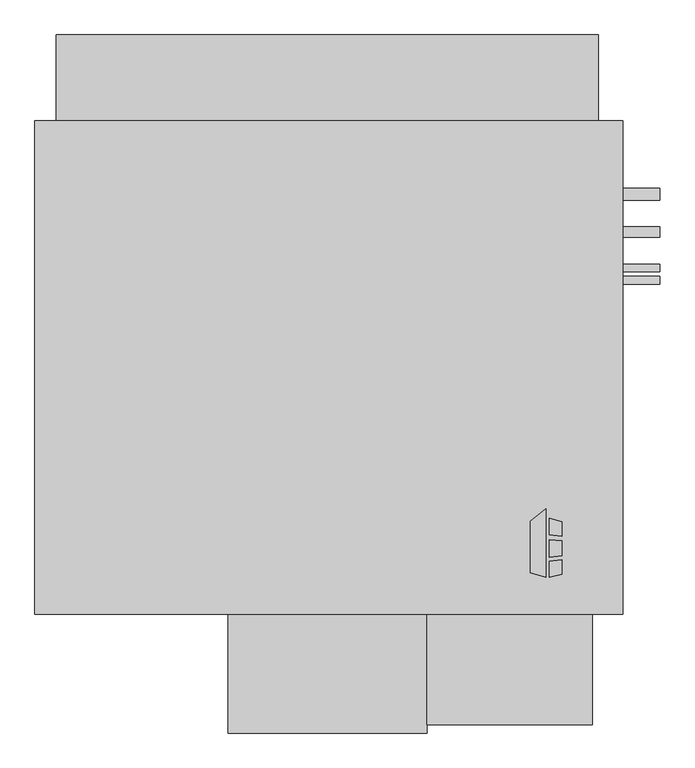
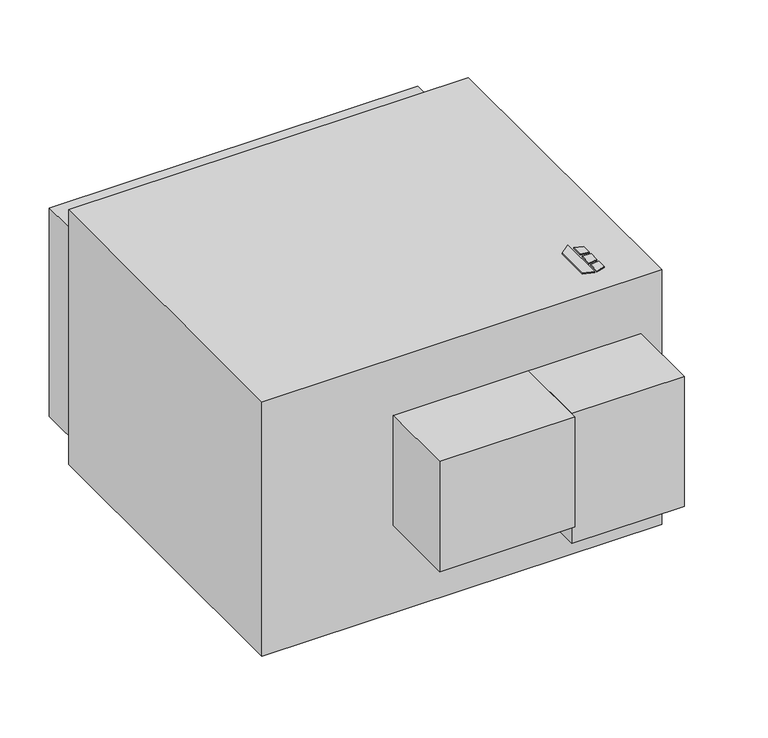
"""IFC4 building model written with IfcOpenShell, lengths in millimetres: proxy geometry, Horizontal_Direct_Drive_Blower_Coil_Unit_-_HDY_-_IEC_-_4-Pipe_RH_2022 : Size 30 - 460v/60Hz/3Ph - 6/2 Coil."""

from ifc_helpers import new_model, si_unit, point, frame, frame_2d, origin, origin_with_axes, place, context, project, spatial, polyline, circle_curve, trimmed, segment, composite_curve, outline, extrude, source, transform, mapped, element, save


def mechanical_equipment_0533dc98(model_context):
    return source(origin(), model_context, "Body", "SweptSolid", [
        extrude(outline(polyline([(-39.9980239, -337.5078476), (-7.4397272, -312.0705184), (-7.4397272, -454.025), (-39.9980239, -443.8054201), (-39.9980239, -337.5078476)])), origin_with_axes(), (0.0, 0.0, 1.0), 3.175),
        extrude(outline(polyline([(-0.6813942, -365.379852), (-0.6813942, -330.8999379), (25.4, -339.0865115), (25.4, -368.5822446), (-0.6813942, -365.379852)])), origin_with_axes(), (0.0, 0.0, 1.0), 3.175),
        extrude(outline(polyline([(25.4, -447.0365115), (-0.6813942, -454.025), (-0.6813942, -420.8036996), (25.4, -417.2618564), (25.4, -447.0365115)])), origin_with_axes(), (0.0, 0.0, 1.0), 3.175),
        extrude(outline(polyline([(25.4, -377.6638277), (25.4, -408.913983), (-0.6813942, -411.655248), (-0.6813942, -375.7975378), (25.4, -377.6638277)])), origin_with_axes(), (0.0, 0.0, 1.0), 3.175),
        extrude(outline(polyline([(152.4, 492.125), (152.4, -530.225), (-1066.8, -530.225), (-1066.8, 492.125), (152.4, 492.125)])), frame((0.0, 0.0, -822.3058174), z_axis=(0.0, 0.0, 1.0), x_axis=(1.0, 0.0, 0.0)), (0.0, 0.0, 1.0), 822.3058174),
        extrude(outline(polyline([(88.9, -758.825), (-254.0, -758.825), (-254.0, -530.225), (88.9, -530.225), (88.9, -758.825)])), frame((0.0, 0.0, -603.2308174), z_axis=(0.0, 0.0, 1.0), x_axis=(1.0, 0.0, 0.0)), (0.0, 0.0, 1.0), 419.1),
        extrude(outline(composite_curve([segment(trimmed(circle_curve(frame_2d((339.725, -180.7500418)), 12.7), [point((352.425, -180.7500418))], [point((327.025, -180.7500418))], False, "CARTESIAN"), True, "CONTINUOUS"), segment(trimmed(circle_curve(frame_2d((339.725, -180.7500418)), 12.7), [point((327.025, -180.7500418))], [point((352.425, -180.7500418))], False, "CARTESIAN"), True, "CONTINUOUS")], self_intersect=False)), frame((152.4, 0.0, 0.0), z_axis=(1.0, 0.0, 0.0), x_axis=(0.0, 1.0, 0.0)), (0.0, 0.0, 1.0), 76.2),
        extrude(outline(composite_curve([segment(trimmed(circle_curve(frame_2d((339.725, -695.3058174)), 12.7), [point((352.425, -695.3058174))], [point((327.025, -695.3058174))], False, "CARTESIAN"), True, "CONTINUOUS"), segment(trimmed(circle_curve(frame_2d((339.725, -695.3058174)), 12.7), [point((327.025, -695.3058174))], [point((352.425, -695.3058174))], False, "CARTESIAN"), True, "CONTINUOUS")], self_intersect=False)), frame((152.4, 0.0, 0.0), z_axis=(1.0, 0.0, 0.0), x_axis=(0.0, 1.0, 0.0)), (0.0, 0.0, 1.0), 76.2),
        extrude(outline(composite_curve([segment(trimmed(circle_curve(frame_2d((261.7604089, -777.8558174)), 11.1125), [point((272.8729089, -777.8558174))], [point((250.6479089, -777.8558174))], False, "CARTESIAN"), True, "CONTINUOUS"), segment(trimmed(circle_curve(frame_2d((261.7604089, -777.8558174)), 11.1125), [point((250.6479089, -777.8558174))], [point((272.8729089, -777.8558174))], False, "CARTESIAN"), True, "CONTINUOUS")], self_intersect=False)), frame((152.4, 0.0, 0.0), z_axis=(1.0, 0.0, 0.0), x_axis=(0.0, 1.0, 0.0)), (0.0, 0.0, 1.0), 76.2),
        extrude(outline(composite_curve([segment(trimmed(circle_curve(frame_2d((187.325, -231.7558174)), 7.9375), [point((195.2625, -231.7558174))], [point((179.3875, -231.7558174))], False, "CARTESIAN"), True, "CONTINUOUS"), segment(trimmed(circle_curve(frame_2d((187.325, -231.7558174)), 7.9375), [point((179.3875, -231.7558174))], [point((195.2625, -231.7558174))], False, "CARTESIAN"), True, "CONTINUOUS")], self_intersect=False)), frame((152.4, 0.0, 0.0), z_axis=(1.0, 0.0, 0.0), x_axis=(0.0, 1.0, 0.0)), (0.0, 0.0, 1.0), 76.2),
        extrude(outline(composite_curve([segment(trimmed(circle_curve(frame_2d((161.925, -644.5058174)), 7.9375), [point((169.8625, -644.5058174))], [point((153.9875, -644.5058174))], False, "CARTESIAN"), True, "CONTINUOUS"), segment(trimmed(circle_curve(frame_2d((161.925, -644.5058174)), 7.9375), [point((153.9875, -644.5058174))], [point((169.8625, -644.5058174))], False, "CARTESIAN"), True, "CONTINUOUS")], self_intersect=False)), frame((152.4, 0.0, 0.0), z_axis=(1.0, 0.0, 0.0), x_axis=(0.0, 1.0, 0.0)), (0.0, 0.0, 1.0), 76.2),
        extrude(outline(polyline([(-1022.35, 669.925), (101.6, 669.925), (101.6, 492.125), (-1022.35, 492.125), (-1022.35, 669.925)])), frame((0.0, 0.0, -790.5558174), z_axis=(0.0, 0.0, 1.0), x_axis=(1.0, 0.0, 0.0)), (0.0, 0.0, 1.0), 673.1),
        extrude(outline(polyline([(-254.0, -776.2875), (-666.75, -776.2875), (-666.75, -530.225), (-254.0, -530.225), (-254.0, -776.2875)])), frame((0.0, 0.0, -539.7308174), z_axis=(0.0, 0.0, 1.0), x_axis=(1.0, 0.0, 0.0)), (0.0, 0.0, 1.0), 355.6),
    ])


if __name__ == "__main__":
    model = new_model("IFC4")
    model_context = context("Model", 3, world=origin())
    ifc_project = project(units=[si_unit("LENGTHUNIT", "METRE", prefix="MILLI")], contexts=[model_context])
    site = spatial("IfcSite", under=ifc_project)
    building = spatial("IfcBuilding", under=site)
    placement = place(None, origin())
    mechanical_equipment_shape = mechanical_equipment_0533dc98(model_context)
    element("IfcBuildingElementProxy", 1, Name="Horizontal_Direct_Drive_Blower_Coil_Unit_-_HDY_-_IEC_-_4-Pipe_RH_2022 : Size 30 - 460v/60Hz/3Ph - 6/2 Coil", ObjectType="Horizontal_Direct_Drive_Blower_Coil_Unit_-_HDY_-_IEC_-_4-Pipe_RH_2022 : Size 30 - 460v/60Hz/3Ph - 6/2 Coil", at=placement, inside=building, context=model_context, shape_type="MappedRepresentation", body=[
        mapped(mechanical_equipment_shape, transform((0.0, 0.0, 0.0), x_axis=(1.0, 0.0, 0.0), y_axis=(0.0, 1.0, 0.0), z_axis=(0.0, 0.0, 1.0))),
    ])
    save(model, "model.ifc")
